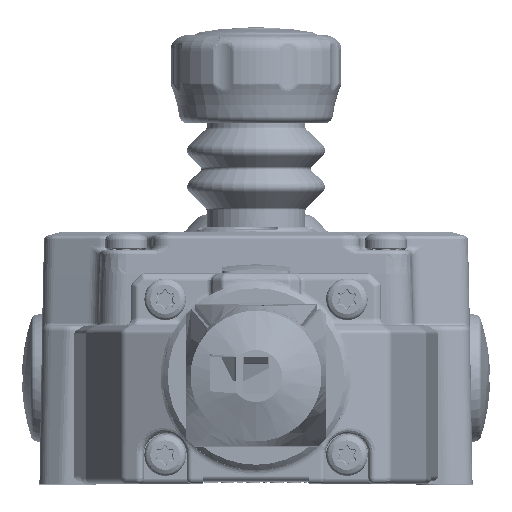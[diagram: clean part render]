
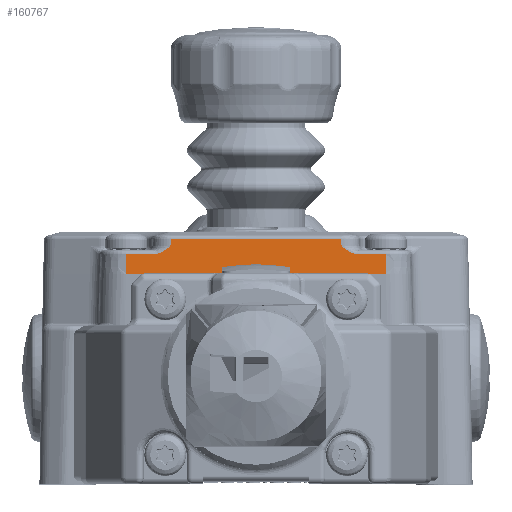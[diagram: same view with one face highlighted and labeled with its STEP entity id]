
A CAD part, top view. The second image highlights one B-rep face of the part: STEP entity #160767.
In plain terms, the highlighted planar face has unit normal (0, 0.035, 0.999).
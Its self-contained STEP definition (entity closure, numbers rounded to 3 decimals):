
#9839=DIRECTION('',(0.,0.999,-0.035));
#9840=VECTOR('',#9839,3.73);
#9841=CARTESIAN_POINT('',(24.999,20.,
0.));
#9842=LINE('',#9841,#9840);
#9853=DIRECTION('',(-1.,0.,0.));
#9854=VECTOR('',#9853,3.413);
#9855=CARTESIAN_POINT('',(-21.586,20.,0.));
#9856=LINE('',#9855,#9854);
#9860=DIRECTION('',(0.,0.999,-0.035));
#9861=VECTOR('',#9860,3.73);
#9862=CARTESIAN_POINT('',(-24.999,20.,
0.));
#9863=LINE('',#9862,#9861);
#9867=CARTESIAN_POINT('',(-19.776,23.728,
-0.13));
#9868=CARTESIAN_POINT('',(-19.636,23.724,
-0.13));
#9869=CARTESIAN_POINT('',(-19.334,23.748,
-0.131));
#9870=CARTESIAN_POINT('',(-18.734,23.894,
-0.136));
#9871=CARTESIAN_POINT('',(-18.235,24.106,
-0.143));
#9872=CARTESIAN_POINT('',(-17.805,24.332,
-0.151));
#9873=CARTESIAN_POINT('',(-17.227,24.705,
-0.164));
#9874=CARTESIAN_POINT('',(-16.739,25.063,
-0.177));
#9875=CARTESIAN_POINT('',(-16.47,25.269,
-0.184));
#9880=DIRECTION('',(0.031,0.999,-0.035));
#9881=VECTOR('',#9880,1.33);
#9882=CARTESIAN_POINT('',(-16.47,25.269,
-0.184));
#9883=LINE('',#9882,#9881);
#9887=DIRECTION('',(1.,0.,0.));
#9888=VECTOR('',#9887,32.858);
#9889=CARTESIAN_POINT('',(-16.429,26.597,
-0.23));
#9890=LINE('',#9889,#9888);
#9894=DIRECTION('',(0.035,-0.999,0.035));
#9895=VECTOR('',#9894,1.327);
#9896=CARTESIAN_POINT('',(16.429,26.597,
-0.23));
#9897=LINE('',#9896,#9895);
#9901=DIRECTION('',(-1.,0.,0.));
#9902=VECTOR('',#9901,3.413);
#9903=CARTESIAN_POINT('',(24.999,20.,
0.));
#9904=LINE('',#9903,#9902);
#9908=DIRECTION('',(-1.,0.,0.));
#9909=VECTOR('',#9908,2.417);
#9910=CARTESIAN_POINT('',(21.586,20.,0.));
#9911=LINE('',#9910,#9909);
#9915=DIRECTION('',(-1.,0.,0.));
#9916=VECTOR('',#9915,3.338);
#9917=CARTESIAN_POINT('',(19.169,20.,0.));
#9918=LINE('',#9917,#9916);
#9922=DIRECTION('',(-1.,0.,0.));
#9923=VECTOR('',#9922,31.662);
#9924=CARTESIAN_POINT('',(15.831,20.,0.));
#9925=LINE('',#9924,#9923);
#9929=DIRECTION('',(-1.,0.,0.));
#9930=VECTOR('',#9929,3.338);
#9931=CARTESIAN_POINT('',(-15.831,20.,0.));
#9932=LINE('',#9931,#9930);
#9936=DIRECTION('',(-1.,0.,0.));
#9937=VECTOR('',#9936,2.417);
#9938=CARTESIAN_POINT('',(-19.169,20.,0.));
#9939=LINE('',#9938,#9937);
#10172=CARTESIAN_POINT('',(-15.831,20.,0.));
#38967=DIRECTION('',(-1.,0.,0.));
#38968=VECTOR('',#38967,5.224);
#38969=CARTESIAN_POINT('',(-19.776,23.728,
-0.13));
#38970=LINE('',#38969,#38968);
#42493=DIRECTION('',(-1.,0.,0.));
#42494=VECTOR('',#42493,5.224);
#42495=CARTESIAN_POINT('',(25.,23.728,
-0.13));
#42496=LINE('',#42495,#42494);
#42508=CARTESIAN_POINT('',(19.776,23.728,
-0.13));
#42509=CARTESIAN_POINT('',(19.635,23.724,
-0.13));
#42510=CARTESIAN_POINT('',(19.331,23.748,
-0.131));
#42511=CARTESIAN_POINT('',(18.717,23.9,
-0.136));
#42512=CARTESIAN_POINT('',(18.23,24.109,
-0.143));
#42513=CARTESIAN_POINT('',(17.797,24.337,
-0.151));
#42514=CARTESIAN_POINT('',(17.217,24.711,
-0.164));
#42515=CARTESIAN_POINT('',(16.738,25.068,
-0.177));
#42516=CARTESIAN_POINT('',(16.475,25.272,
-0.184));
#71695=CARTESIAN_POINT('',(19.169,20.,0.));
#137219=CARTESIAN_POINT('',(-19.169,20.,0.));
#137220=CARTESIAN_POINT('',(-21.586,20.,0.));
#137221=VERTEX_POINT('',#137219);
#137222=VERTEX_POINT('',#137220);
#137225=VERTEX_POINT('',#10172);
#137226=CARTESIAN_POINT('',(15.831,20.,0.));
#137227=VERTEX_POINT('',#137226);
#137230=VERTEX_POINT('',#71695);
#137231=CARTESIAN_POINT('',(21.586,20.,0.));
#137232=VERTEX_POINT('',#137231);
#137263=CARTESIAN_POINT('',(-24.999,20.,
0.));
#137264=VERTEX_POINT('',#137263);
#137265=CARTESIAN_POINT('',(-25.,23.728,
-0.13));
#137266=VERTEX_POINT('',#137265);
#137267=CARTESIAN_POINT('',(-19.776,23.728,
-0.13));
#137268=VERTEX_POINT('',#137267);
#137269=VERTEX_POINT('',#9875);
#137270=CARTESIAN_POINT('',(-16.429,26.597,
-0.23));
#137271=VERTEX_POINT('',#137270);
#137272=CARTESIAN_POINT('',(16.429,26.597,
-0.23));
#137273=VERTEX_POINT('',#137272);
#137274=CARTESIAN_POINT('',(16.475,25.272,
-0.184));
#137275=VERTEX_POINT('',#137274);
#137276=VERTEX_POINT('',#42508);
#137277=CARTESIAN_POINT('',(25.,23.728,
-0.13));
#137278=VERTEX_POINT('',#137277);
#137279=CARTESIAN_POINT('',(24.999,20.,
0.));
#137280=VERTEX_POINT('',#137279);
#160729=CARTESIAN_POINT('',(-32.555,20.,0.));
#160730=DIRECTION('',(0.,0.035,0.999));
#160731=DIRECTION('',(1.,0.,0.));
#160732=AXIS2_PLACEMENT_3D('',#160729,#160730,#160731);
#160733=PLANE('',#160732);
#160735=ORIENTED_EDGE('',*,*,#160734,.T.);
#160737=ORIENTED_EDGE('',*,*,#160736,.T.);
#160739=ORIENTED_EDGE('',*,*,#160738,.F.);
#160741=ORIENTED_EDGE('',*,*,#160740,.T.);
#160743=ORIENTED_EDGE('',*,*,#160742,.T.);
#160745=ORIENTED_EDGE('',*,*,#160744,.T.);
#160747=ORIENTED_EDGE('',*,*,#160746,.T.);
#160749=ORIENTED_EDGE('',*,*,#160748,.F.);
#160751=ORIENTED_EDGE('',*,*,#160750,.F.);
#160752=ORIENTED_EDGE('',*,*,#160720,.F.);
#160754=ORIENTED_EDGE('',*,*,#160753,.T.);
#160756=ORIENTED_EDGE('',*,*,#160755,.T.);
#160758=ORIENTED_EDGE('',*,*,#160757,.T.);
#160760=ORIENTED_EDGE('',*,*,#160759,.T.);
#160762=ORIENTED_EDGE('',*,*,#160761,.T.);
#160764=ORIENTED_EDGE('',*,*,#160763,.T.);
#160765=EDGE_LOOP('',(#160735,#160737,#160739,#160741,#160743,#160745,#160747,
#160749,#160751,#160752,#160754,#160756,#160758,#160760,#160762,#160764));
#160766=FACE_OUTER_BOUND('',#160765,.F.);
#9876=B_SPLINE_CURVE_WITH_KNOTS('',3,(#9867,#9868,#9869,#9870,#9871,#9872,#9873,
#9874,#9875),.UNSPECIFIED.,.F.,.F.,(4,1,1,1,1,1,4),(0.,0.167,
0.333,0.5,0.667,0.833,1.),
.UNSPECIFIED.);
#42517=B_SPLINE_CURVE_WITH_KNOTS('',3,(#42508,#42509,#42510,#42511,#42512,
#42513,#42514,#42515,#42516),.UNSPECIFIED.,.F.,.F.,(4,1,1,1,1,1,4),(0.,
0.167,0.333,0.5,0.667,0.833,
1.),.UNSPECIFIED.);
#160720=EDGE_CURVE('',#137280,#137278,#9842,.T.);
#160734=EDGE_CURVE('',#137222,#137264,#9856,.T.);
#160736=EDGE_CURVE('',#137264,#137266,#9863,.T.);
#160738=EDGE_CURVE('',#137268,#137266,#38970,.T.);
#160740=EDGE_CURVE('',#137268,#137269,#9876,.T.);
#160742=EDGE_CURVE('',#137269,#137271,#9883,.T.);
#160744=EDGE_CURVE('',#137271,#137273,#9890,.T.);
#160746=EDGE_CURVE('',#137273,#137275,#9897,.T.);
#160748=EDGE_CURVE('',#137276,#137275,#42517,.T.);
#160750=EDGE_CURVE('',#137278,#137276,#42496,.T.);
#160753=EDGE_CURVE('',#137280,#137232,#9904,.T.);
#160755=EDGE_CURVE('',#137232,#137230,#9911,.T.);
#160757=EDGE_CURVE('',#137230,#137227,#9918,.T.);
#160759=EDGE_CURVE('',#137227,#137225,#9925,.T.);
#160761=EDGE_CURVE('',#137225,#137221,#9932,.T.);
#160763=EDGE_CURVE('',#137221,#137222,#9939,.T.);
#160767=ADVANCED_FACE('',(#160766),#160733,.T.);
